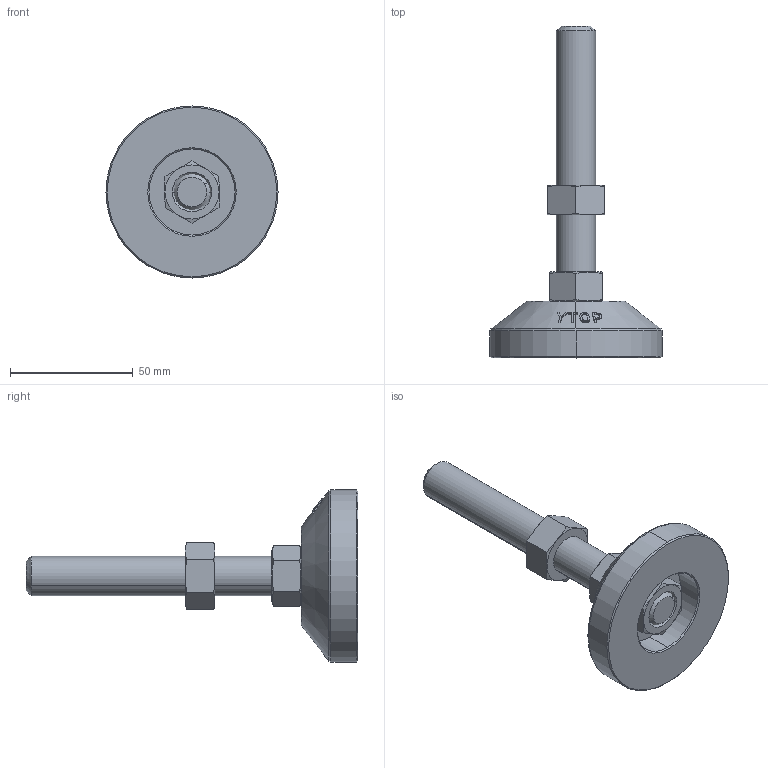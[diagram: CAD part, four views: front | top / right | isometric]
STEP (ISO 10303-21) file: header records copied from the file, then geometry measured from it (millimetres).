
FILE_DESCRIPTION (( 'STEP AP203' ), '1' );
FILE_NAME ('M-70-16100-S.STEP', '2020-09-10T06:58:53', ( '' ), ( '' ), 'SwSTEP 2.0', 'SolidWorks 2016', '' );
FILE_SCHEMA (( 'CONFIG_CONTROL_DESIGN' ));
Length unit declared in the file: millimetre
Products named in the file (5): M-70-1褐菜 ; 不锈钢双头螺杆M16系列_M16X100; M-70-16100-S; 脚垫锁紧六角薄螺母M16; 脚垫调节六角螺母M16
Assembly tree (4 placements, depth 2):
  M-70-16100-S
    M-70-1褐菜 
    不锈钢双头螺杆M16系列_M16X100
    脚垫锁紧六角薄螺母M16
    脚垫调节六角螺母M16
Bounding box: 70 x 135 x 70 mm (x, y, z)
Volume: 94032.7 mm3; surface area: 23205.3 mm2
Topology: 4 solids, 4 shells, 143 faces, 329 edges, 202 vertices
Faces by surface type: cone 62, bspline 38, plane 29, cylinder 14
Entity records: 8592 total; most frequent: CARTESIAN_POINT 5241, ORIENTED_EDGE 658, DIRECTION 457, EDGE_CURVE 329, VERTEX_POINT 202, AXIS2_PLACEMENT_3D 196, B_SPLINE_CURVE_WITH_KNOTS 180, EDGE_LOOP 157
